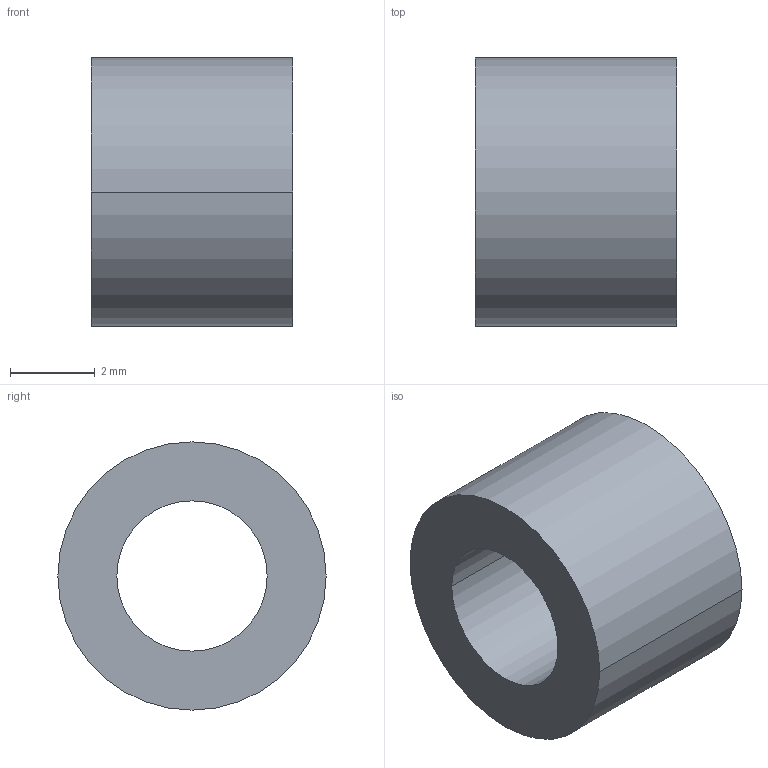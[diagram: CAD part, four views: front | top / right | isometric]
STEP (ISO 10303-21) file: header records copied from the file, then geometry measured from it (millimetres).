
FILE_DESCRIPTION(/* description */ ('(C) Elphel, Inc. 2012. Licensed under CERN OHL v.1.1 or later, see http://ohwr.org/cernohl'),/* implementation_level */ '2;1');
FILE_NAME(/* name */ '0353-88-01',/* time_stamp */ '2012-06-11T14:05:12-06:00',/* author */ (''),/* organization */ ('Elphel, Inc'),/* preprocessor_version */ 'ST-DEVELOPER v12',/* originating_system */ 'VariCAD 2012-1.04; kernel version (20100102)',/* authorisation */ '');
FILE_SCHEMA (('AUTOMOTIVE_DESIGN'));
Length unit declared in the file: millimetre
Products named in the file (1): Part
Bounding box: 4.76 x 6.35 x 6.35 mm (x, y, z)
Volume: 103.5 mm3; surface area: 191.7 mm2
Topology: 1 solids, 1 shells, 6 faces, 12 edges, 8 vertices
Faces by surface type: cylinder 4, plane 2
Entity records: 195 total; most frequent: DIRECTION 36, CARTESIAN_POINT 28, ORIENTED_EDGE 24, AXIS2_PLACEMENT_3D 16, EDGE_CURVE 12, EDGE_LOOP 8, CIRCLE 8, VERTEX_POINT 8
